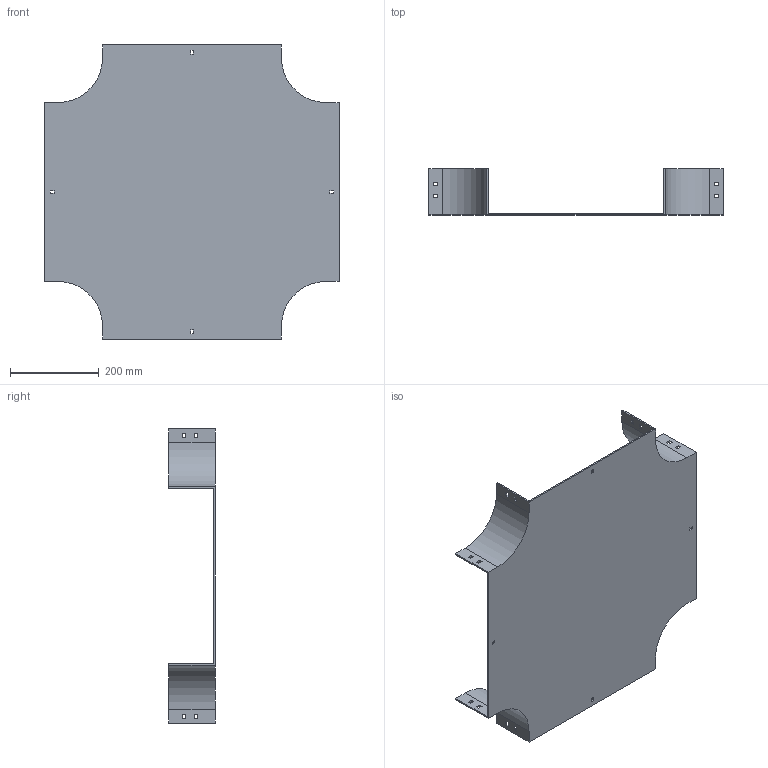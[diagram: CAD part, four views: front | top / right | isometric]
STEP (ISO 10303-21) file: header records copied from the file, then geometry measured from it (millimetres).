
FILE_DESCRIPTION (( 'STEP AP214' ), '1' );
FILE_NAME ('17F1D400.step', '2025-02-21T13:05:17', ( '' ), ( '' ), 'SwSTEP 2.0', 'SolidWorks 2023', '' );
FILE_SCHEMA (( 'AUTOMOTIVE_DESIGN' ));
Length unit declared in the file: millimetre
Products named in the file (1): 17F1D400
Bounding box: 664 x 104 x 664 mm (x, y, z)
Volume: 1641140 mm3; surface area: 951641.4 mm2
Topology: 1 solids, 1 shells, 114 faces, 336 edges, 224 vertices
Faces by surface type: plane 106, cylinder 8
Entity records: 3839 total; most frequent: CARTESIAN_POINT 675, ORIENTED_EDGE 672, DIRECTION 582, EDGE_CURVE 336, VECTOR 320, LINE 320, VERTEX_POINT 224, EDGE_LOOP 154
